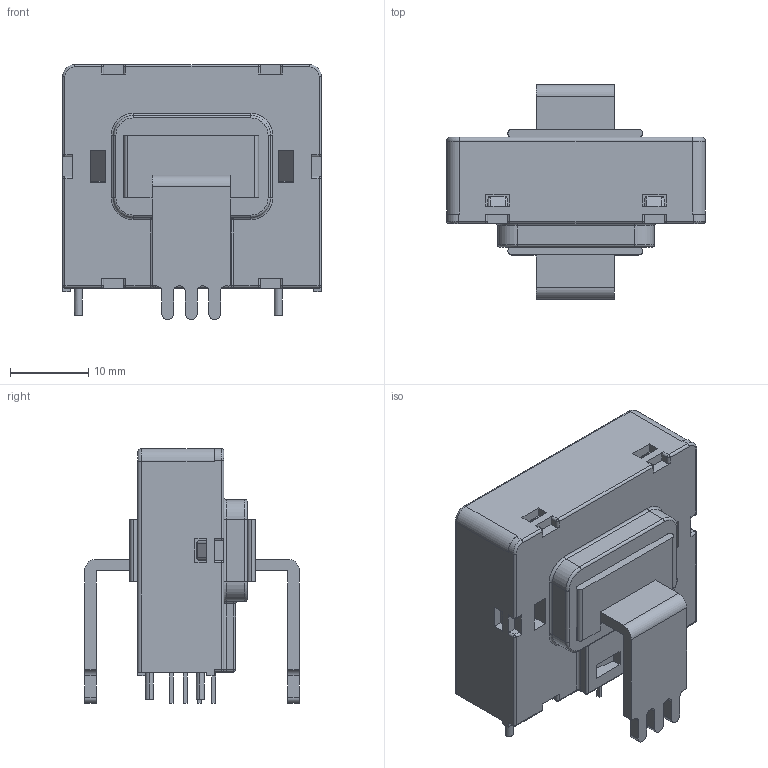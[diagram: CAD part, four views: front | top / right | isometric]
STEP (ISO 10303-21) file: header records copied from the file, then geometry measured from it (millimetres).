
FILE_DESCRIPTION(('CoCreate Modeling STEP Export'),'2;1');
FILE_NAME('HAIS xxx-TP series.stp','2014-02-20T20:07:06',(''),(''),'CoCreate Modeling STEP processor for AP214 (Solid Model)','CoCreate Modeling 17.00A 17-Jun-2010 (C) Parametric Technology GmbH','');
FILE_SCHEMA(('AUTOMOTIVE_DESIGN { 1 0 10303 214 1 1 1 1 }'));
Length unit declared in the file: millimetre
Products named in the file (3): Blackbox; HAIS_3D.stp
Assembly tree (2 placements, depth 3):
  HAIS_3D.stp
    Blackbox
      Blackbox
Bounding box: 33 x 27.4 x 32.5 mm (x, y, z)
Volume: 11711.6 mm3; surface area: 5223.3 mm2
Topology: 1 solids, 1 shells, 402 faces, 1066 edges, 656 vertices
Faces by surface type: plane 223, cylinder 129, sphere 30, torus 16, cone 4
Entity records: 12704 total; most frequent: CARTESIAN_POINT 2223, ORIENTED_EDGE 2086, DIRECTION 1989, EDGE_CURVE 1043, VECTOR 705, LINE 705, VERTEX_POINT 656, AXIS2_PLACEMENT_3D 642
